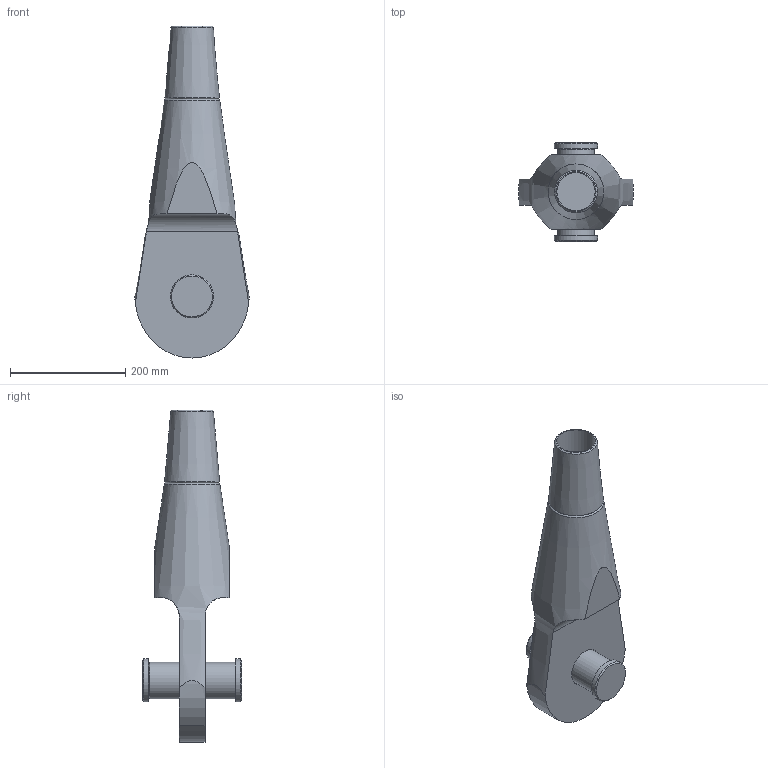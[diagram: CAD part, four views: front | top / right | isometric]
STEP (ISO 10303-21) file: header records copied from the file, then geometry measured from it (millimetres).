
FILE_DESCRIPTION(/* description */ (''),/* implementation_level */ '2;1');
FILE_NAME(/* name */ 'G:\Engineering\700 CAD\Internet-PX-1-step-igs-dxf\520-OES-Arbeitsdateien\520-064-OES.stp',/* time_stamp */ '2020-06-26T10:37:33+02:00',/* author */ ('schwarz'),/* organization */ (''),/* preprocessor_version */ 'ST-DEVELOPER v16.1',/* originating_system */ 'Autodesk Inventor 2016',/* authorisation */ '');
FILE_SCHEMA (('AUTOMOTIVE_DESIGN { 1 0 10303 214 3 1 1 }'));
Length unit declared in the file: centimetre
Products named in the file (1): 520-064-OES-KMU-Kunde
Bounding box: 198.52 x 172.3 x 577 mm (x, y, z)
Volume: 5218035 mm3; surface area: 305892.8 mm2
Topology: 2 solids, 4 shells, 49 faces, 109 edges, 71 vertices
Faces by surface type: plane 22, cylinder 14, cone 12, torus 1
Full cylindrical faces by diameter (mm): 13.835 x1, 16 x1, 17.5 x1, 29.01 x1, 64 x1, 66.5 x1, 67 x1, 75 x2
Entity records: 1384 total; most frequent: CARTESIAN_POINT 344, DIRECTION 198, ORIENTED_EDGE 158, AXIS2_PLACEMENT_3D 89, EDGE_CURVE 79, EDGE_LOOP 78, VERTEX_POINT 63, STYLED_ITEM 51
